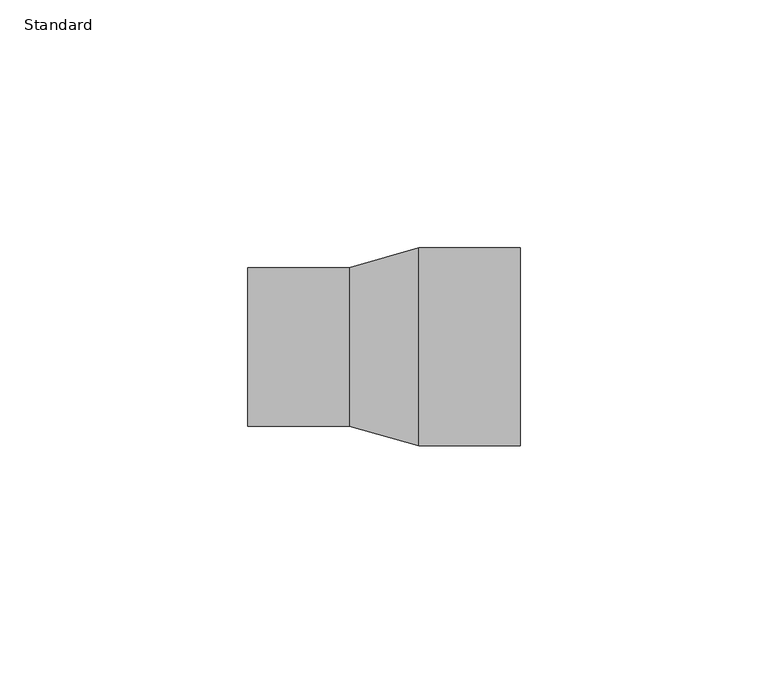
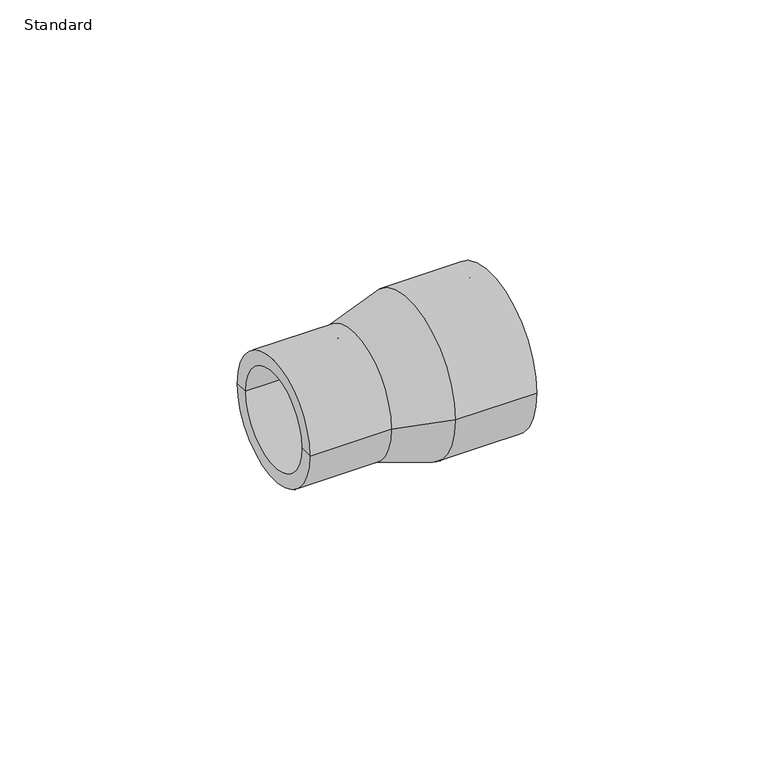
"""IFC4 building model written with IfcOpenShell, lengths in millimetres: pipe fitting geometry, Durapipe_PipeFitting_PVC_Reducers : Standard."""

from ifc_helpers import new_model, si_unit, frame, origin, place, context, project, spatial, polyline, circle_curve, source, transform, mapped, element, save
from ifc_brep_helpers import plane_surface, cylinder_surface, revolved_surface, advanced_brep


def standard_e55b3d03(model_context):
    return source(origin(), model_context, "Body", "AdvancedBrep", [
        advanced_brep(
        [(-27.5, -16.0, 0.0), (-27.5, 16.0, 0.0), (-7.0, 16.0, 0.0), (-7.0, -16.0, 0.0), (-27.5, -12.5, 0.0), (-27.5, 12.5, 0.0), (27.5, -20.0, 0.0), (27.5, 20.0, 0.0), (27.5, 16.0, 0.0), (27.5, -16.0, 0.0), (7.0, -20.0, 0.0), (7.0, 20.0, 0.0), (-7.0, -12.5, 0.0), (-7.0, 12.5, 0.0), (-7.0, 0.0, 0.0), (7.0, -16.0, 0.0), (7.0, 16.0, 0.0), (7.0, 0.0, 0.0)],
        [
            (0, 1, circle_curve(frame((-27.5, 0.0, 0.0), z_axis=(1.0, 0.0, 0.0), x_axis=(0.0, 1.0, 0.0)), 16.0)),
            (1, 2),
            (2, 3, circle_curve(frame((-7.0, 0.0, 0.0), z_axis=(-1.0, 0.0, 0.0), x_axis=(0.0, 1.0, 0.0)), 16.0)),
            (3, 0),
            (1, 0, circle_curve(frame((-27.5, 0.0, 0.0), z_axis=(1.0, 0.0, 0.0), x_axis=(0.0, 1.0, 0.0)), 16.0)),
            (3, 2, circle_curve(frame((-7.0, 0.0, 0.0), z_axis=(-1.0, 0.0, 0.0), x_axis=(0.0, 1.0, 0.0)), 16.0)),
            (4, 5, circle_curve(frame((-27.5, 0.0, 0.0), z_axis=(1.0, 0.0, 0.0), x_axis=(0.0, 1.0, 0.0)), 12.5)),
            (5, 1),
            (0, 4),
            (5, 4, circle_curve(frame((-27.5, 0.0, 0.0), z_axis=(1.0, 0.0, 0.0), x_axis=(0.0, 1.0, 0.0)), 12.5)),
            (6, 7, circle_curve(frame((27.5, 0.0, 0.0), z_axis=(1.0, 0.0, 0.0), x_axis=(0.0, 1.0, 0.0)), 20.0)),
            (7, 8),
            (8, 9, circle_curve(frame((27.5, 0.0, 0.0), z_axis=(-1.0, 0.0, 0.0), x_axis=(0.0, 1.0, 0.0)), 16.0)),
            (9, 6),
            (7, 6, circle_curve(frame((27.5, 0.0, 0.0), z_axis=(1.0, 0.0, 0.0), x_axis=(0.0, 1.0, 0.0)), 20.0)),
            (9, 8, circle_curve(frame((27.5, 0.0, 0.0), z_axis=(-1.0, 0.0, 0.0), x_axis=(0.0, 1.0, 0.0)), 16.0)),
            (10, 11, circle_curve(frame((7.0, 0.0, 0.0), z_axis=(1.0, 0.0, 0.0), x_axis=(0.0, 1.0, 0.0)), 20.0)),
            (11, 7),
            (6, 10),
            (11, 10, circle_curve(frame((7.0, 0.0, 0.0), z_axis=(1.0, 0.0, 0.0), x_axis=(0.0, 1.0, 0.0)), 20.0)),
            (2, 11),
            (10, 3),
            (12, 13, circle_curve(frame((-7.0, 0.0, 0.0), z_axis=(1.0, 0.0, 0.0), x_axis=(0.0, 1.0, 0.0)), 12.5)),
            (13, 5),
            (4, 12),
            (13, 12, circle_curve(frame((-7.0, 0.0, 0.0), z_axis=(1.0, 0.0, 0.0), x_axis=(0.0, 1.0, 0.0)), 12.5)),
            (14, 13),
            (12, 14),
            (15, 16, circle_curve(frame((7.0, 0.0, 0.0), z_axis=(1.0, 0.0, 0.0), x_axis=(0.0, 1.0, 0.0)), 16.0)),
            (16, 17),
            (17, 15),
            (16, 15, circle_curve(frame((7.0, 0.0, 0.0), z_axis=(1.0, 0.0, 0.0), x_axis=(0.0, 1.0, 0.0)), 16.0)),
            (8, 16),
            (15, 9),
        ],
        [
            cylinder_surface(frame((-27.5, 0.0, 0.0), z_axis=(-1.0, 0.0, 0.0), x_axis=(0.0, 1.0, 0.0)), 16.0),
            plane_surface(frame((-27.5, 0.0, 0.0), z_axis=(-1.0, 0.0, 0.0), x_axis=(0.0, 1.0, 0.0))),
            plane_surface(frame((27.5, 0.0, 0.0), z_axis=(1.0, 0.0, 0.0), x_axis=(0.0, 1.0, 0.0))),
            cylinder_surface(frame((-27.5, 0.0, 0.0), z_axis=(-1.0, 0.0, 0.0), x_axis=(0.0, 1.0, 0.0)), 20.0),
            revolved_surface(polyline([(7.0, 20.0, 0.0), (-7.0, 16.0, 0.0)]), (-27.5, 0.0, 0.0), (-1.0, 0.0, 0.0)),
            revolved_surface(polyline([(-27.5, 12.5, 0.0), (-7.0, 12.5, 0.0)]), (-27.5, 0.0, 0.0), (-1.0, 0.0, 0.0)),
            plane_surface(frame((-7.0, 0.0, 0.0), z_axis=(-1.0, 0.0, 0.0), x_axis=(0.0, 1.0, 0.0))),
            plane_surface(frame((7.0, 0.0, 0.0), z_axis=(1.0, 0.0, 0.0), x_axis=(0.0, 1.0, 0.0))),
            revolved_surface(polyline([(7.0, 16.0, 0.0), (27.5, 16.0, 0.0)]), (-27.5, 0.0, 0.0), (-1.0, 0.0, 0.0)),
        ],
        [
            (0, [[1, 2, 3, 4]]),
            (0, [[5, -4, 6, -2]]),
            (1, [[7, 8, -1, 9]]),
            (1, [[10, -9, -5, -8]]),
            (2, [[11, 12, 13, 14]]),
            (2, [[15, -14, 16, -12]]),
            (3, [[17, 18, -11, 19]]),
            (3, [[20, -19, -15, -18]]),
            (4, [[-3, 21, -17, 22]]),
            (4, [[-6, -22, -20, -21]]),
            (5, [[23, 24, -7, 25]]),
            (5, [[26, -25, -10, -24]]),
            (6, [[27, -23, 28]]),
            (6, [[-28, -26, -27]]),
            (7, [[29, 30, 31]]),
            (7, [[32, -31, -30]]),
            (8, [[-13, 33, -29, 34]]),
            (8, [[-16, -34, -32, -33]]),
        ],
    ),
    ])


if __name__ == "__main__":
    model = new_model("IFC4")
    model_context = context("Model", 3, world=origin())
    ifc_project = project(units=[si_unit("LENGTHUNIT", "METRE", prefix="MILLI")], contexts=[model_context])
    site = spatial("IfcSite", under=ifc_project)
    building = spatial("IfcBuilding", under=site)
    placement = place(None, origin())
    standard_shape = standard_e55b3d03(model_context)
    element("IfcPipeFitting", 1, ObjectType="Durapipe_PipeFitting_PVC_Reducers : Standard", at=placement, inside=building, context=model_context, shape_type="MappedRepresentation", body=[
        mapped(standard_shape, transform((0.0, 0.0, 0.0), x_axis=(1.0, 0.0, 0.0), y_axis=(0.0, 1.0, 0.0), z_axis=(0.0, 0.0, 1.0))),
    ])
    save(model, "model.ifc")
